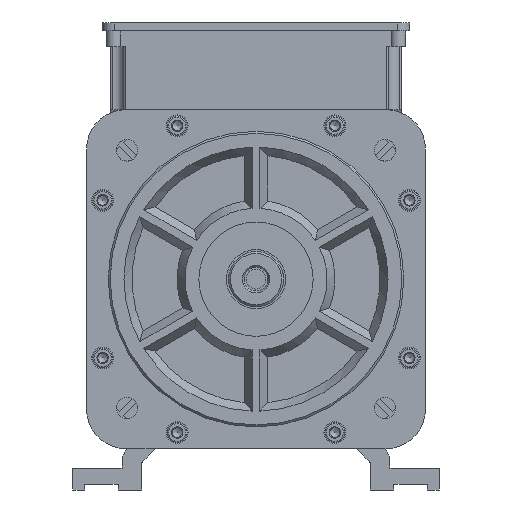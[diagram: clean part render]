
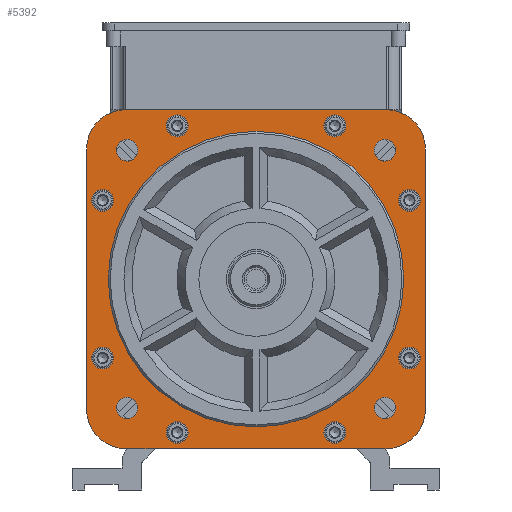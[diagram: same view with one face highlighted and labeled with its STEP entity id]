
A CAD part, front view. The second image highlights one B-rep face of the part: STEP entity #5392.
In plain terms, the highlighted planar face has unit normal (0, -1, 0).
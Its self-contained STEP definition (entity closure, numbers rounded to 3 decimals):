
#3449=FACE_BOUND('',#11192,.T.);
#3450=FACE_BOUND('',#11193,.T.);
#3451=FACE_BOUND('',#11194,.T.);
#3452=FACE_BOUND('',#11195,.T.);
#3453=FACE_BOUND('',#11196,.T.);
#3454=FACE_BOUND('',#11197,.T.);
#3455=FACE_BOUND('',#11198,.T.);
#3456=FACE_BOUND('',#11199,.T.);
#3457=FACE_BOUND('',#11200,.T.);
#3458=FACE_BOUND('',#11201,.T.);
#3459=FACE_BOUND('',#11202,.T.);
#3460=FACE_BOUND('',#11203,.T.);
#3461=FACE_BOUND('',#11204,.T.);
#3462=FACE_BOUND('',#11205,.T.);
#3998=CIRCLE('',#42251,75.);
#4123=CIRCLE('',#42605,5.5);
#4124=CIRCLE('',#42607,5.5);
#4125=CIRCLE('',#42609,5.5);
#4126=CIRCLE('',#42611,5.5);
#4127=CIRCLE('',#42613,5.5);
#4128=CIRCLE('',#42615,5.5);
#4129=CIRCLE('',#42617,5.5);
#4130=CIRCLE('',#42619,5.5);
#4131=CIRCLE('',#42621,5.5);
#4132=CIRCLE('',#42623,5.5);
#4133=CIRCLE('',#42625,5.5);
#4134=CIRCLE('',#42627,5.5);
#4137=CIRCLE('',#42636,20.);
#4138=CIRCLE('',#42638,20.);
#4140=CIRCLE('',#42641,20.);
#4142=CIRCLE('',#42644,20.);
#5392=ADVANCED_FACE('',(#3449,#3450,#3451,#3452,#3453,#3454,#3455,#3456,
#3457,#3458,#3459,#3460,#3461,#3462),#7610,.F.);
#7610=PLANE('',#42650);
#11192=EDGE_LOOP('',(#14935));
#11193=EDGE_LOOP('',(#14936));
#11194=EDGE_LOOP('',(#14937));
#11195=EDGE_LOOP('',(#14938));
#11196=EDGE_LOOP('',(#14939));
#11197=EDGE_LOOP('',(#14940));
#11198=EDGE_LOOP('',(#14941));
#11199=EDGE_LOOP('',(#14942));
#11200=EDGE_LOOP('',(#14943));
#11201=EDGE_LOOP('',(#14944));
#11202=EDGE_LOOP('',(#14945));
#11203=EDGE_LOOP('',(#14946));
#11204=EDGE_LOOP('',(#14947));
#11205=EDGE_LOOP('',(#14948,#14949,#14950,#14951,#14952,#14953,#14954,#14955,
#14956,#14957));
#14935=ORIENTED_EDGE('',*,*,#30070,.F.);
#14936=ORIENTED_EDGE('',*,*,#30699,.T.);
#14937=ORIENTED_EDGE('',*,*,#30700,.T.);
#14938=ORIENTED_EDGE('',*,*,#30701,.T.);
#14939=ORIENTED_EDGE('',*,*,#30702,.T.);
#14940=ORIENTED_EDGE('',*,*,#30703,.T.);
#14941=ORIENTED_EDGE('',*,*,#30704,.F.);
#14942=ORIENTED_EDGE('',*,*,#30705,.T.);
#14943=ORIENTED_EDGE('',*,*,#30706,.T.);
#14944=ORIENTED_EDGE('',*,*,#30707,.T.);
#14945=ORIENTED_EDGE('',*,*,#30708,.F.);
#14946=ORIENTED_EDGE('',*,*,#30709,.F.);
#14947=ORIENTED_EDGE('',*,*,#30710,.T.);
#14948=ORIENTED_EDGE('',*,*,#30760,.T.);
#14949=ORIENTED_EDGE('',*,*,#30782,.T.);
#14950=ORIENTED_EDGE('',*,*,#30744,.F.);
#14951=ORIENTED_EDGE('',*,*,#30743,.F.);
#14952=ORIENTED_EDGE('',*,*,#30780,.T.);
#14953=ORIENTED_EDGE('',*,*,#30728,.F.);
#14954=ORIENTED_EDGE('',*,*,#30779,.T.);
#14955=ORIENTED_EDGE('',*,*,#30776,.T.);
#14956=ORIENTED_EDGE('',*,*,#30775,.T.);
#14957=ORIENTED_EDGE('',*,*,#30784,.T.);
#25924=VERTEX_POINT('',#54983);
#26385=VERTEX_POINT('',#56302);
#26386=VERTEX_POINT('',#56305);
#26387=VERTEX_POINT('',#56308);
#26388=VERTEX_POINT('',#56311);
#26389=VERTEX_POINT('',#56314);
#26390=VERTEX_POINT('',#56317);
#26391=VERTEX_POINT('',#56320);
#26392=VERTEX_POINT('',#56323);
#26393=VERTEX_POINT('',#56326);
#26394=VERTEX_POINT('',#56329);
#26395=VERTEX_POINT('',#56332);
#26396=VERTEX_POINT('',#56335);
#26399=VERTEX_POINT('',#56344);
#26401=VERTEX_POINT('',#56359);
#26402=VERTEX_POINT('',#56363);
#26404=VERTEX_POINT('',#56378);
#26405=VERTEX_POINT('',#56380);
#26406=VERTEX_POINT('',#56384);
#26409=VERTEX_POINT('',#56401);
#26412=VERTEX_POINT('',#56420);
#26413=VERTEX_POINT('',#56422);
#26414=VERTEX_POINT('',#56424);
#30070=EDGE_CURVE('',#25924,#25924,#3998,.T.);
#30699=EDGE_CURVE('',#26385,#26385,#4123,.T.);
#30700=EDGE_CURVE('',#26386,#26386,#4124,.T.);
#30701=EDGE_CURVE('',#26387,#26387,#4125,.T.);
#30702=EDGE_CURVE('',#26388,#26388,#4126,.T.);
#30703=EDGE_CURVE('',#26389,#26389,#4127,.T.);
#30704=EDGE_CURVE('',#26390,#26390,#4128,.T.);
#30705=EDGE_CURVE('',#26391,#26391,#4129,.T.);
#30706=EDGE_CURVE('',#26392,#26392,#4130,.T.);
#30707=EDGE_CURVE('',#26393,#26393,#4131,.T.);
#30708=EDGE_CURVE('',#26394,#26394,#4132,.T.);
#30709=EDGE_CURVE('',#26395,#26395,#4133,.T.);
#30710=EDGE_CURVE('',#26396,#26396,#4134,.T.);
#30728=EDGE_CURVE('',#26401,#26399,#36688,.T.);
#30743=EDGE_CURVE('',#26404,#26405,#36703,.T.);
#30744=EDGE_CURVE('',#26405,#26402,#36704,.T.);
#30760=EDGE_CURVE('',#26406,#26409,#36720,.T.);
#30775=EDGE_CURVE('',#26413,#26412,#36735,.T.);
#30776=EDGE_CURVE('',#26414,#26413,#36736,.T.);
#30779=EDGE_CURVE('',#26401,#26414,#4137,.T.);
#30780=EDGE_CURVE('',#26404,#26399,#4138,.T.);
#30782=EDGE_CURVE('',#26409,#26402,#4140,.T.);
#30784=EDGE_CURVE('',#26412,#26406,#4142,.T.);
#36688=LINE('',#56360,#39635);
#36703=LINE('',#56379,#39650);
#36704=LINE('',#56381,#39651);
#36720=LINE('',#56402,#39667);
#36735=LINE('',#56421,#39682);
#36736=LINE('',#56423,#39683);
#39635=VECTOR('',#46780,1.);
#39650=VECTOR('',#46797,1.);
#39651=VECTOR('',#46798,1.);
#39667=VECTOR('',#46816,1.);
#39682=VECTOR('',#46833,1.);
#39683=VECTOR('',#46834,1.);
#42251=AXIS2_PLACEMENT_3D('',#54982,#45500,#45501);
#42605=AXIS2_PLACEMENT_3D('',#56301,#46712,#46713);
#42607=AXIS2_PLACEMENT_3D('',#56304,#46716,#46717);
#42609=AXIS2_PLACEMENT_3D('',#56307,#46720,#46721);
#42611=AXIS2_PLACEMENT_3D('',#56310,#46724,#46725);
#42613=AXIS2_PLACEMENT_3D('',#56313,#46728,#46729);
#42615=AXIS2_PLACEMENT_3D('',#56316,#46732,#46733);
#42617=AXIS2_PLACEMENT_3D('',#56319,#46736,#46737);
#42619=AXIS2_PLACEMENT_3D('',#56322,#46740,#46741);
#42621=AXIS2_PLACEMENT_3D('',#56325,#46744,#46745);
#42623=AXIS2_PLACEMENT_3D('',#56328,#46748,#46749);
#42625=AXIS2_PLACEMENT_3D('',#56331,#46752,#46753);
#42627=AXIS2_PLACEMENT_3D('',#56334,#46756,#46757);
#42636=AXIS2_PLACEMENT_3D('',#56428,#46840,#46841);
#42638=AXIS2_PLACEMENT_3D('',#56430,#46844,#46845);
#42641=AXIS2_PLACEMENT_3D('',#56433,#46850,#46851);
#42644=AXIS2_PLACEMENT_3D('',#56436,#46856,#46857);
#42650=AXIS2_PLACEMENT_3D('',#56442,#46868,#46869);
#45500=DIRECTION('',(0.,-1.,0.));
#45501=DIRECTION('',(0.,0.,-1.));
#46712=DIRECTION('',(0.,1.,0.));
#46713=DIRECTION('',(0.707,0.,-0.707));
#46716=DIRECTION('',(0.,1.,0.));
#46717=DIRECTION('',(0.707,0.,0.707));
#46720=DIRECTION('',(0.,1.,0.));
#46721=DIRECTION('',(-0.707,0.,-0.707));
#46724=DIRECTION('',(0.,1.,0.));
#46725=DIRECTION('',(-0.707,0.,0.707));
#46728=DIRECTION('',(0.,1.,0.));
#46729=DIRECTION('',(0.,0.,-1.));
#46732=DIRECTION('',(0.,-1.,0.));
#46733=DIRECTION('',(0.,0.,-1.));
#46736=DIRECTION('',(0.,1.,0.));
#46737=DIRECTION('',(0.,0.,-1.));
#46740=DIRECTION('',(0.,1.,0.));
#46741=DIRECTION('',(0.,0.,-1.));
#46744=DIRECTION('',(0.,1.,0.));
#46745=DIRECTION('',(0.,0.,-1.));
#46748=DIRECTION('',(0.,-1.,0.));
#46749=DIRECTION('',(0.,0.,-1.));
#46752=DIRECTION('',(0.,-1.,0.));
#46753=DIRECTION('',(0.,0.,-1.));
#46756=DIRECTION('',(0.,1.,0.));
#46757=DIRECTION('',(0.,0.,-1.));
#46780=DIRECTION('',(0.,0.,-1.));
#46797=DIRECTION('',(-1.,0.,0.));
#46798=DIRECTION('',(-1.,0.,0.));
#46816=DIRECTION('',(0.,0.,-1.));
#46833=DIRECTION('',(-1.,0.,0.));
#46834=DIRECTION('',(-1.,0.,0.));
#46840=DIRECTION('',(0.,-1.,0.));
#46841=DIRECTION('',(0.,0.,-1.));
#46844=DIRECTION('',(0.,-1.,0.));
#46845=DIRECTION('',(0.,0.,-1.));
#46850=DIRECTION('',(0.,-1.,0.));
#46851=DIRECTION('',(0.,0.,-1.));
#46856=DIRECTION('',(0.,-1.,0.));
#46857=DIRECTION('',(0.,0.,-1.));
#46868=DIRECTION('',(0.,1.,0.));
#46869=DIRECTION('',(0.,0.,-1.));
#54982=CARTESIAN_POINT('',(-13.291,58.45,90.));
#54983=CARTESIAN_POINT('',(-13.291,58.45,15.));
#56301=CARTESIAN_POINT('',(-78.698,58.45,155.407));
#56302=CARTESIAN_POINT('',(-74.809,58.45,151.518));
#56304=CARTESIAN_POINT('',(-78.698,58.45,24.593));
#56305=CARTESIAN_POINT('',(-74.809,58.45,28.482));
#56307=CARTESIAN_POINT('',(52.117,58.45,155.407));
#56308=CARTESIAN_POINT('',(48.228,58.45,151.518));
#56310=CARTESIAN_POINT('',(52.117,58.45,24.593));
#56311=CARTESIAN_POINT('',(48.228,58.45,28.482));
#56313=CARTESIAN_POINT('',(-91.112,58.45,130.));
#56314=CARTESIAN_POINT('',(-91.112,58.45,124.5));
#56316=CARTESIAN_POINT('',(-91.112,58.45,50.));
#56317=CARTESIAN_POINT('',(-91.112,58.45,44.5));
#56319=CARTESIAN_POINT('',(-53.291,58.45,167.822));
#56320=CARTESIAN_POINT('',(-53.291,58.45,162.322));
#56322=CARTESIAN_POINT('',(-53.291,58.45,12.178));
#56323=CARTESIAN_POINT('',(-53.291,58.45,6.678));
#56325=CARTESIAN_POINT('',(26.709,58.45,167.822));
#56326=CARTESIAN_POINT('',(26.709,58.45,162.322));
#56328=CARTESIAN_POINT('',(26.709,58.45,12.178));
#56329=CARTESIAN_POINT('',(26.709,58.45,6.678));
#56331=CARTESIAN_POINT('',(64.531,58.45,130.));
#56332=CARTESIAN_POINT('',(64.531,58.45,124.5));
#56334=CARTESIAN_POINT('',(64.531,58.45,50.));
#56335=CARTESIAN_POINT('',(64.531,58.45,44.5));
#56344=CARTESIAN_POINT('',(72.709,58.45,24.));
#56359=CARTESIAN_POINT('',(72.709,58.45,156.));
#56360=CARTESIAN_POINT('',(72.709,58.45,90.));
#56363=CARTESIAN_POINT('',(-79.291,58.45,4.));
#56378=CARTESIAN_POINT('',(52.709,58.45,4.));
#56379=CARTESIAN_POINT('',(-13.141,58.45,4.));
#56380=CARTESIAN_POINT('',(51.496,58.45,4.));
#56381=CARTESIAN_POINT('',(-13.141,58.45,4.));
#56384=CARTESIAN_POINT('',(-99.291,58.45,156.));
#56401=CARTESIAN_POINT('',(-99.291,58.45,24.));
#56402=CARTESIAN_POINT('',(-99.291,58.45,89.85));
#56420=CARTESIAN_POINT('',(-79.291,58.45,176.));
#56421=CARTESIAN_POINT('',(-13.441,58.45,176.));
#56422=CARTESIAN_POINT('',(-72.291,58.45,176.));
#56423=CARTESIAN_POINT('',(-13.441,58.45,176.));
#56424=CARTESIAN_POINT('',(52.709,58.45,176.));
#56428=CARTESIAN_POINT('',(52.709,58.45,156.));
#56430=CARTESIAN_POINT('',(52.709,58.45,24.));
#56433=CARTESIAN_POINT('',(-79.291,58.45,24.));
#56436=CARTESIAN_POINT('',(-79.291,58.45,156.));
#56442=CARTESIAN_POINT('',(-13.291,58.45,90.));
